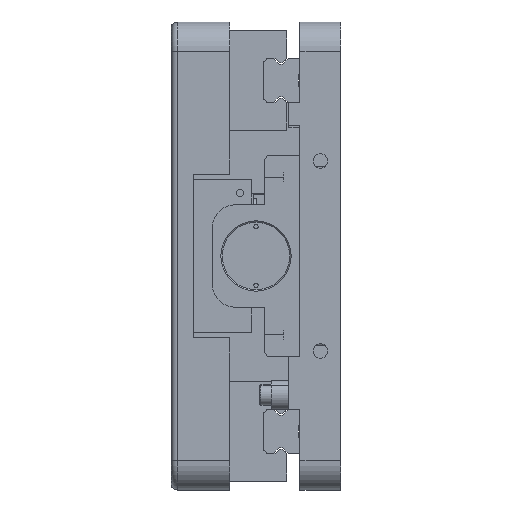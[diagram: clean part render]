
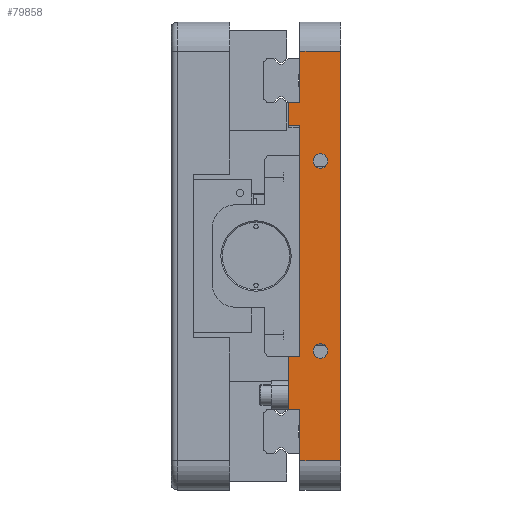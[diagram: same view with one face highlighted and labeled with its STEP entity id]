
A CAD part, left-side view. The second image highlights one B-rep face of the part: STEP entity #79858.
In plain terms, the highlighted planar face has unit normal (-1, 0, 0).
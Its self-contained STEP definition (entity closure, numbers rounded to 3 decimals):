
#68 = DIRECTION ( 'NONE',  ( 0., 0., 1. ) ) ;
#104 = VERTEX_POINT ( 'NONE', #24563 ) ;
#424 = VERTEX_POINT ( 'NONE', #20927 ) ;
#928 = AXIS2_PLACEMENT_3D ( 'NONE', #89845, #88911, #36624 ) ;
#3113 = VECTOR ( 'NONE', #79386, 1000. ) ;
#3263 = CARTESIAN_POINT ( 'NONE',  ( -161.5, 17.8, -34.5 ) ) ;
#3502 = VERTEX_POINT ( 'NONE', #62393 ) ;
#4670 = CARTESIAN_POINT ( 'NONE',  ( -161.5, -110.209, 44.5 ) ) ;
#5300 = LINE ( 'NONE', #34106, #74351 ) ;
#6210 = DIRECTION ( 'NONE',  ( 0., 0., -1. ) ) ;
#6604 = DIRECTION ( 'NONE',  ( 0., 0., -1. ) ) ;
#8115 = VERTEX_POINT ( 'NONE', #24097 ) ;
#8215 = CARTESIAN_POINT ( 'NONE',  ( -161.5, 7., -32.5 ) ) ;
#8349 = DIRECTION ( 'NONE',  ( 0., 1., 0. ) ) ;
#8997 = CARTESIAN_POINT ( 'NONE',  ( -161.5, -324.169, 52.5 ) ) ;
#9115 = AXIS2_PLACEMENT_3D ( 'NONE', #96185, #43952, #6604 ) ;
#9357 = VECTOR ( 'NONE', #8349, 1000. ) ;
#11191 = VECTOR ( 'NONE', #39313, 1000. ) ;
#12104 = LINE ( 'NONE', #84407, #81158 ) ;
#12417 = EDGE_CURVE ( 'NONE', #104, #3502, #72599, .T. ) ;
#13722 = ORIENTED_EDGE ( 'NONE', *, *, #56374, .T. ) ;
#14054 = VERTEX_POINT ( 'NONE', #69055 ) ;
#16239 = LINE ( 'NONE', #87972, #88766 ) ;
#16481 = VERTEX_POINT ( 'NONE', #74707 ) ;
#16908 = VECTOR ( 'NONE', #93969, 1000. ) ;
#17225 = ORIENTED_EDGE ( 'NONE', *, *, #68072, .T. ) ;
#17443 = DIRECTION ( 'NONE',  ( 0., 0., -1. ) ) ;
#17784 = ORIENTED_EDGE ( 'NONE', *, *, #36972, .F. ) ;
#20730 = DIRECTION ( 'NONE',  ( 0., 1., 0. ) ) ;
#20865 = CARTESIAN_POINT ( 'NONE',  ( -161.5, 17.8, -80. ) ) ;
#20927 = CARTESIAN_POINT ( 'NONE',  ( -161.5, 14., 44.5 ) ) ;
#21814 = LINE ( 'NONE', #4670, #33640 ) ;
#21991 = ORIENTED_EDGE ( 'NONE', *, *, #48306, .F. ) ;
#22665 = DIRECTION ( 'NONE',  ( 0., 0., 1. ) ) ;
#22984 = CARTESIAN_POINT ( 'NONE',  ( -161.5, 7., 32.5 ) ) ;
#23592 = EDGE_CURVE ( 'NONE', #8115, #86040, #85197, .T. ) ;
#24097 = CARTESIAN_POINT ( 'NONE',  ( -161.5, 7., 35. ) ) ;
#24563 = CARTESIAN_POINT ( 'NONE',  ( -161.5, 7., -35. ) ) ;
#25548 = CARTESIAN_POINT ( 'NONE',  ( -161.5, 7., 30. ) ) ;
#25927 = ORIENTED_EDGE ( 'NONE', *, *, #12417, .F. ) ;
#26252 = VERTEX_POINT ( 'NONE', #59150 ) ;
#26949 = LINE ( 'NONE', #8997, #9357 ) ;
#28422 = CARTESIAN_POINT ( 'NONE',  ( -161.5, 17.8, 44.5 ) ) ;
#28641 = ORIENTED_EDGE ( 'NONE', *, *, #55670, .F. ) ;
#29622 = DIRECTION ( 'NONE',  ( 0., 0., 1. ) ) ;
#32972 = VERTEX_POINT ( 'NONE', #61239 ) ;
#33288 = DIRECTION ( 'NONE',  ( 0., 0., -1. ) ) ;
#33640 = VECTOR ( 'NONE', #20730, 1000. ) ;
#34106 = CARTESIAN_POINT ( 'NONE',  ( -161.5, -324.169, -52.5 ) ) ;
#34190 = DIRECTION ( 'NONE',  ( 0., 0., 1. ) ) ;
#35617 = FACE_BOUND ( 'NONE', #89351, .T. ) ;
#36624 = DIRECTION ( 'NONE',  ( 0., 0., 1. ) ) ;
#36733 = CARTESIAN_POINT ( 'NONE',  ( -161.5, 14., -34.5 ) ) ;
#36972 = EDGE_CURVE ( 'NONE', #14054, #61820, #69854, .T. ) ;
#37037 = EDGE_LOOP ( 'NONE', ( #49673, #17225, #68091, #49748, #28641, #80481, #13722, #51527, #17784, #21991, #73306, #48007 ) ) ;
#39313 = DIRECTION ( 'NONE',  ( 0., 1., 0. ) ) ;
#39715 = EDGE_CURVE ( 'NONE', #3502, #104, #83919, .T. ) ;
#41265 = LINE ( 'NONE', #48295, #86787 ) ;
#42067 = CARTESIAN_POINT ( 'NONE',  ( -161.5, 7., -32.5 ) ) ;
#43952 = DIRECTION ( 'NONE',  ( 1., 0., 0. ) ) ;
#44898 = VECTOR ( 'NONE', #6210, 1000. ) ;
#46372 = VERTEX_POINT ( 'NONE', #89015 ) ;
#47147 = CARTESIAN_POINT ( 'NONE',  ( -161.5, -110.209, -34.5 ) ) ;
#48007 = ORIENTED_EDGE ( 'NONE', *, *, #89430, .T. ) ;
#48295 = CARTESIAN_POINT ( 'NONE',  ( -161.5, 14., -80. ) ) ;
#48306 = EDGE_CURVE ( 'NONE', #66748, #14054, #5300, .T. ) ;
#49673 = ORIENTED_EDGE ( 'NONE', *, *, #68440, .T. ) ;
#49748 = ORIENTED_EDGE ( 'NONE', *, *, #57970, .T. ) ;
#50414 = DIRECTION ( 'NONE',  ( 0., -1., 0. ) ) ;
#50897 = AXIS2_PLACEMENT_3D ( 'NONE', #22984, #74927, #22665 ) ;
#51396 = AXIS2_PLACEMENT_3D ( 'NONE', #8215, #60911, #68 ) ;
#51527 = ORIENTED_EDGE ( 'NONE', *, *, #61684, .T. ) ;
#51688 = CARTESIAN_POINT ( 'NONE',  ( -161.5, 14., 70. ) ) ;
#52595 = LINE ( 'NONE', #80660, #93525 ) ;
#53097 = FACE_BOUND ( 'NONE', #56183, .T. ) ;
#55158 = AXIS2_PLACEMENT_3D ( 'NONE', #42067, #78947, #34190 ) ;
#55670 = EDGE_CURVE ( 'NONE', #57357, #32972, #78323, .T. ) ;
#56183 = EDGE_LOOP ( 'NONE', ( #61980, #25927 ) ) ;
#56374 = EDGE_CURVE ( 'NONE', #424, #76784, #12104, .T. ) ;
#57357 = VERTEX_POINT ( 'NONE', #28422 ) ;
#57937 = CARTESIAN_POINT ( 'NONE',  ( -161.5, 14., 52.5 ) ) ;
#57970 = EDGE_CURVE ( 'NONE', #86048, #32972, #26949, .T. ) ;
#58419 = VECTOR ( 'NONE', #29622, 1000. ) ;
#59150 = CARTESIAN_POINT ( 'NONE',  ( -161.5, 0., 70. ) ) ;
#60176 = FACE_OUTER_BOUND ( 'NONE', #37037, .T. ) ;
#60911 = DIRECTION ( 'NONE',  ( -1., 0., 0. ) ) ;
#61239 = CARTESIAN_POINT ( 'NONE',  ( -161.5, 17.8, 52.5 ) ) ;
#61368 = LINE ( 'NONE', #87094, #16908 ) ;
#61684 = EDGE_CURVE ( 'NONE', #76784, #61820, #70838, .T. ) ;
#61820 = VERTEX_POINT ( 'NONE', #3263 ) ;
#61980 = ORIENTED_EDGE ( 'NONE', *, *, #39715, .F. ) ;
#62393 = CARTESIAN_POINT ( 'NONE',  ( -161.5, 7., -30. ) ) ;
#64517 = ORIENTED_EDGE ( 'NONE', *, *, #23592, .F. ) ;
#64725 = LINE ( 'NONE', #81107, #44898 ) ;
#66748 = VERTEX_POINT ( 'NONE', #74763 ) ;
#68072 = EDGE_CURVE ( 'NONE', #26252, #73125, #52595, .T. ) ;
#68091 = ORIENTED_EDGE ( 'NONE', *, *, #77232, .T. ) ;
#68440 = EDGE_CURVE ( 'NONE', #16481, #26252, #61368, .T. ) ;
#69055 = CARTESIAN_POINT ( 'NONE',  ( -161.5, 17.8, -52.5 ) ) ;
#69854 = LINE ( 'NONE', #20865, #3113 ) ;
#70838 = LINE ( 'NONE', #47147, #11191 ) ;
#72489 = DIRECTION ( 'NONE',  ( 0., 1., 0. ) ) ;
#72599 = CIRCLE ( 'NONE', #51396, 2.5 ) ;
#73125 = VERTEX_POINT ( 'NONE', #51688 ) ;
#73306 = ORIENTED_EDGE ( 'NONE', *, *, #77961, .T. ) ;
#74351 = VECTOR ( 'NONE', #86026, 1000. ) ;
#74451 = EDGE_CURVE ( 'NONE', #424, #57357, #21814, .T. ) ;
#74707 = CARTESIAN_POINT ( 'NONE',  ( -161.5, 0., -70. ) ) ;
#74763 = CARTESIAN_POINT ( 'NONE',  ( -161.5, 14., -52.5 ) ) ;
#74927 = DIRECTION ( 'NONE',  ( -1., 0., 0. ) ) ;
#76784 = VERTEX_POINT ( 'NONE', #36733 ) ;
#77232 = EDGE_CURVE ( 'NONE', #73125, #86048, #64725, .T. ) ;
#77961 = EDGE_CURVE ( 'NONE', #66748, #46372, #41265, .T. ) ;
#78323 = LINE ( 'NONE', #88818, #58419 ) ;
#78947 = DIRECTION ( 'NONE',  ( -1., 0., 0. ) ) ;
#79386 = DIRECTION ( 'NONE',  ( 0., 0., 1. ) ) ;
#79858 = ADVANCED_FACE ( 'NONE', ( #53097, #35617, #60176 ), #80851, .F. ) ;
#80481 = ORIENTED_EDGE ( 'NONE', *, *, #74451, .F. ) ;
#80660 = CARTESIAN_POINT ( 'NONE',  ( -161.5, 17.8, 70. ) ) ;
#80851 = PLANE ( 'NONE',  #9115 ) ;
#81107 = CARTESIAN_POINT ( 'NONE',  ( -161.5, 14., 80. ) ) ;
#81158 = VECTOR ( 'NONE', #17443, 1000. ) ;
#82621 = ORIENTED_EDGE ( 'NONE', *, *, #96916, .F. ) ;
#83919 = CIRCLE ( 'NONE', #55158, 2.5 ) ;
#84407 = CARTESIAN_POINT ( 'NONE',  ( -161.5, 14., 44.5 ) ) ;
#85197 = CIRCLE ( 'NONE', #50897, 2.5 ) ;
#86026 = DIRECTION ( 'NONE',  ( 0., 1., 0. ) ) ;
#86040 = VERTEX_POINT ( 'NONE', #25548 ) ;
#86048 = VERTEX_POINT ( 'NONE', #57937 ) ;
#86787 = VECTOR ( 'NONE', #33288, 1000. ) ;
#87094 = CARTESIAN_POINT ( 'NONE',  ( -161.5, 0., -80. ) ) ;
#87972 = CARTESIAN_POINT ( 'NONE',  ( -161.5, 17.8, -70. ) ) ;
#88766 = VECTOR ( 'NONE', #50414, 1000. ) ;
#88818 = CARTESIAN_POINT ( 'NONE',  ( -161.5, 17.8, -80. ) ) ;
#88911 = DIRECTION ( 'NONE',  ( -1., 0., 0. ) ) ;
#89015 = CARTESIAN_POINT ( 'NONE',  ( -161.5, 14., -70. ) ) ;
#89351 = EDGE_LOOP ( 'NONE', ( #64517, #82621 ) ) ;
#89430 = EDGE_CURVE ( 'NONE', #46372, #16481, #16239, .T. ) ;
#89845 = CARTESIAN_POINT ( 'NONE',  ( -161.5, 7., 32.5 ) ) ;
#93525 = VECTOR ( 'NONE', #72489, 1000. ) ;
#93969 = DIRECTION ( 'NONE',  ( 0., 0., 1. ) ) ;
#95826 = CIRCLE ( 'NONE', #928, 2.5 ) ;
#96185 = CARTESIAN_POINT ( 'NONE',  ( -161.5, 17.8, -80. ) ) ;
#96916 = EDGE_CURVE ( 'NONE', #86040, #8115, #95826, .T. ) ;
